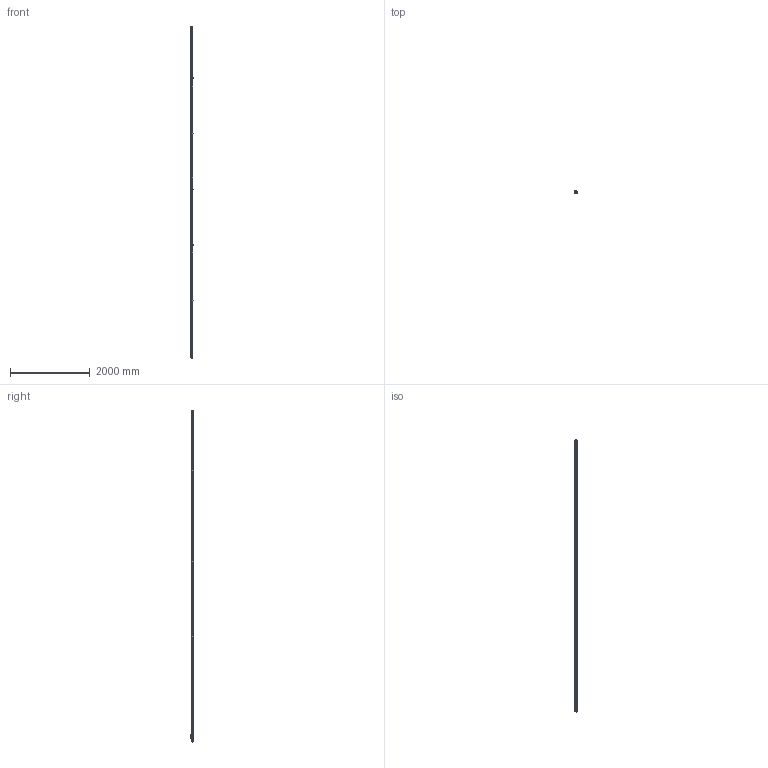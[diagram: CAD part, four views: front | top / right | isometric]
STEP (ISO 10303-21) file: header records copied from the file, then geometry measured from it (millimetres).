
FILE_DESCRIPTION(('Creo Elements/Direct Modeling STEP Export'),'2;1');
FILE_NAME('L-80.stp','2011-11-29T11:49:11',(''),(''),'Creo Elements/Direct Modeling STEP processor for AP214 (Solid Model)','Creo Elements/Direct Modeling 17.0C 05-Feb-2011 (C) Parametric Technology GmbH','');
FILE_SCHEMA(('AUTOMOTIVE_DESIGN { 1 0 10303 214 1 1 1 1 }'));
Length unit declared in the file: millimetre
Products named in the file (5): Modulos_intermedio_(FL-14); CABEZA; Modulo_der_(10-ET); Modulo_izq_(L-KT); L-80
Assembly tree (7 placements, depth 2):
  L-80
    Modulo_izq_(L-KT)
    Modulos_intermedio_(FL-14)  x4
    Modulo_der_(10-ET)
    CABEZA
Bounding box: 51.5 x 87.95 x 8349.1 mm (x, y, z)
Volume: 17999589.7 mm3; surface area: 2497022.5 mm2
Topology: 28 solids, 96 shells, 5013 faces, 13815 edges, 8873 vertices
Faces by surface type: cylinder 2202, plane 2003, cone 362, torus 227, bspline 143, extrusion 50, sphere 26
Entity records: 124882 total; most frequent: CARTESIAN_POINT 35747, ORIENTED_EDGE 18834, DIRECTION 16756, EDGE_CURVE 9397, VERTEX_POINT 6087, AXIS2_PLACEMENT_3D 5924, VECTOR 4908, LINE 4888
